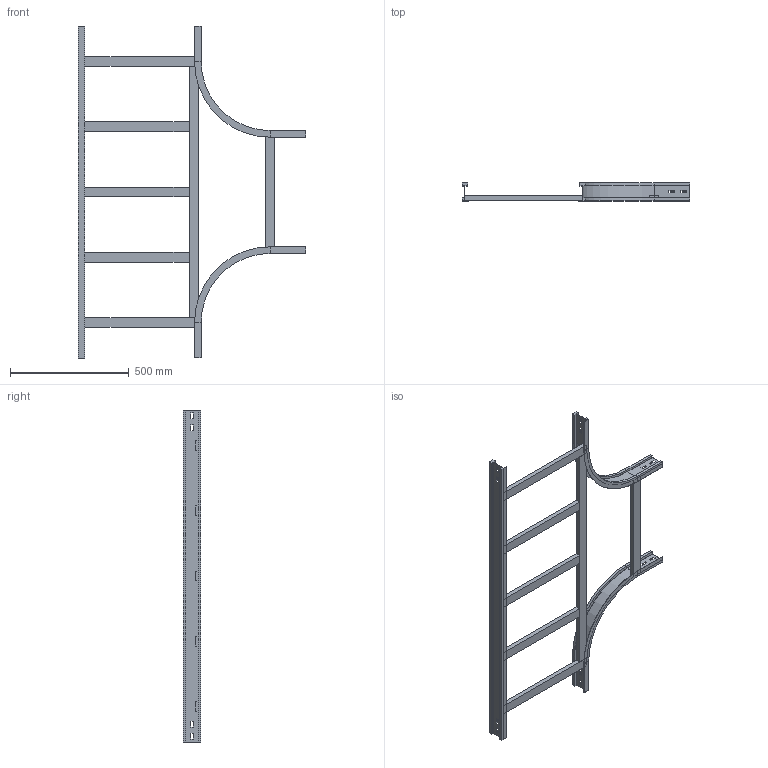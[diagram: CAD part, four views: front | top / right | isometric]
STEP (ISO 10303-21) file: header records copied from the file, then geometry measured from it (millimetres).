
FILE_DESCRIPTION (( 'STEP AP214' ), '1' );
FILE_NAME ('15S3C500.step', '2025-02-21T16:14:51', ( '' ), ( '' ), 'SwSTEP 2.0', 'SolidWorks 2023', '' );
FILE_SCHEMA (( 'AUTOMOTIVE_DESIGN' ));
Length unit declared in the file: millimetre
Products named in the file (6): TRAVERSINO_500; LONGH.RETT_H75_R300+500; TRAVERSINO_LONG._R300+500; 15S3C500; LONGH.INTERNO 90°_H75_R300; TRAVERSINO_INTERMEDIO_R300+500
Assembly tree (10 placements, depth 2):
  15S3C500
    LONGH.INTERNO 90°_H75_R300  x2
    LONGH.RETT_H75_R300+500
    TRAVERSINO_500  x3
    TRAVERSINO_LONG._R300+500
    TRAVERSINO_INTERMEDIO_R300+500  x3
Bounding box: 959 x 75 x 1400 mm (x, y, z)
Volume: 4622255.8 mm3; surface area: 1212572.4 mm2
Topology: 10 solids, 10 shells, 180 faces, 432 edges, 272 vertices
Faces by surface type: plane 168, cylinder 12
Entity records: 3195 total; most frequent: CARTESIAN_POINT 527, ORIENTED_EDGE 504, DIRECTION 494, EDGE_CURVE 252, VECTOR 240, LINE 240, VERTEX_POINT 160, AXIS2_PLACEMENT_3D 127
